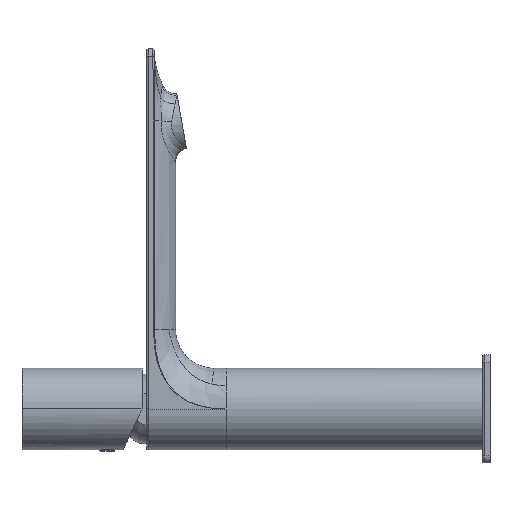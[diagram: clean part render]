
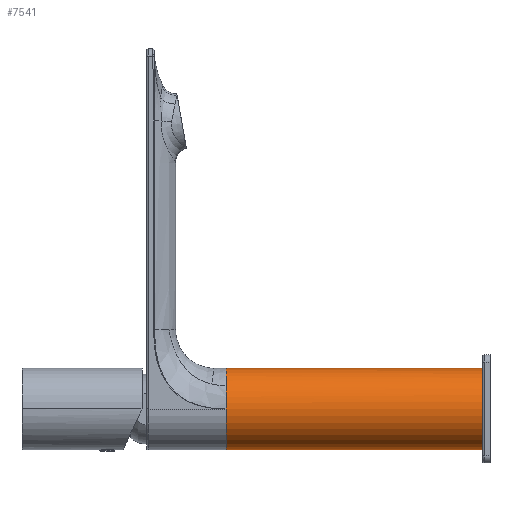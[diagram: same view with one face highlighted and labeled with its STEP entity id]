
A CAD part, left-side view. The second image highlights one B-rep face of the part: STEP entity #7541.
In plain terms, the highlighted cylindrical face has radius 17 mm (diameter 34 mm), a partial arc.
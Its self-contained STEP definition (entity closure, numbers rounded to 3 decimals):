
#329=DIRECTION('',(0.,1.,0.));
#330=VECTOR('',#329,107.);
#331=CARTESIAN_POINT('',(0.,0.,17.));
#332=LINE('',#331,#330);
#338=CARTESIAN_POINT('',(0.,107.,0.));
#339=DIRECTION('',(0.,1.,0.));
#340=DIRECTION('',(0.,0.,-1.));
#341=AXIS2_PLACEMENT_3D('',#338,#339,#340);
#343=CARTESIAN_POINT('',(0.,0.,0.));
#344=DIRECTION('',(0.,1.,0.));
#345=DIRECTION('',(0.,0.,-1.));
#346=AXIS2_PLACEMENT_3D('',#343,#344,#345);
#348=DIRECTION('',(0.,1.,0.));
#349=VECTOR('',#348,107.);
#350=CARTESIAN_POINT('',(0.,0.,-17.));
#351=LINE('',#350,#349);
#383=CARTESIAN_POINT('',(0.,107.,0.));
#384=DIRECTION('',(0.,1.,0.));
#385=DIRECTION('',(-1.,0.,0.));
#386=AXIS2_PLACEMENT_3D('',#383,#384,#385);
#586=CARTESIAN_POINT('',(0.,107.,0.));
#587=DIRECTION('',(0.,1.,0.));
#588=DIRECTION('',(-0.819,0.,0.574));
#589=AXIS2_PLACEMENT_3D('',#586,#587,#588);
#6102=CARTESIAN_POINT('',(0.,107.,-17.));
#6103=CARTESIAN_POINT('',(-17.,107.,0.));
#6104=VERTEX_POINT('',#6102);
#6105=VERTEX_POINT('',#6103);
#6153=CARTESIAN_POINT('',(-13.926,107.,9.751));
#6154=VERTEX_POINT('',#6153);
#6195=CARTESIAN_POINT('',(0.,107.,17.));
#6196=VERTEX_POINT('',#6195);
#6696=CARTESIAN_POINT('',(0.,0.,17.));
#6697=CARTESIAN_POINT('',(0.,0.,-17.));
#6698=VERTEX_POINT('',#6696);
#6699=VERTEX_POINT('',#6697);
#7526=CARTESIAN_POINT('',(0.,0.,0.));
#7527=DIRECTION('',(0.,1.,0.));
#7528=DIRECTION('',(0.,0.,1.));
#7529=AXIS2_PLACEMENT_3D('',#7526,#7527,#7528);
#7530=CYLINDRICAL_SURFACE('',#7529,17.);
#7531=ORIENTED_EDGE('',*,*,#7496,.F.);
#7532=ORIENTED_EDGE('',*,*,#7521,.T.);
#7533=ORIENTED_EDGE('',*,*,#7519,.T.);
#7535=ORIENTED_EDGE('',*,*,#7534,.T.);
#7537=ORIENTED_EDGE('',*,*,#7536,.T.);
#7538=ORIENTED_EDGE('',*,*,#7507,.F.);
#7539=EDGE_LOOP('',(#7531,#7532,#7533,#7535,#7537,#7538));
#7540=FACE_OUTER_BOUND('',#7539,.F.);
#7541=ADVANCED_FACE('',(#7540),#7530,.T.);
#342=CIRCLE('',#341,17.);
#347=CIRCLE('',#346,17.);
#387=CIRCLE('',#386,17.);
#590=CIRCLE('',#589,17.);
#7496=EDGE_CURVE('',#6699,#6698,#347,.T.);
#7507=EDGE_CURVE('',#6698,#6196,#332,.T.);
#7519=EDGE_CURVE('',#6104,#6105,#342,.T.);
#7521=EDGE_CURVE('',#6699,#6104,#351,.T.);
#7534=EDGE_CURVE('',#6105,#6154,#387,.T.);
#7536=EDGE_CURVE('',#6154,#6196,#590,.T.);
